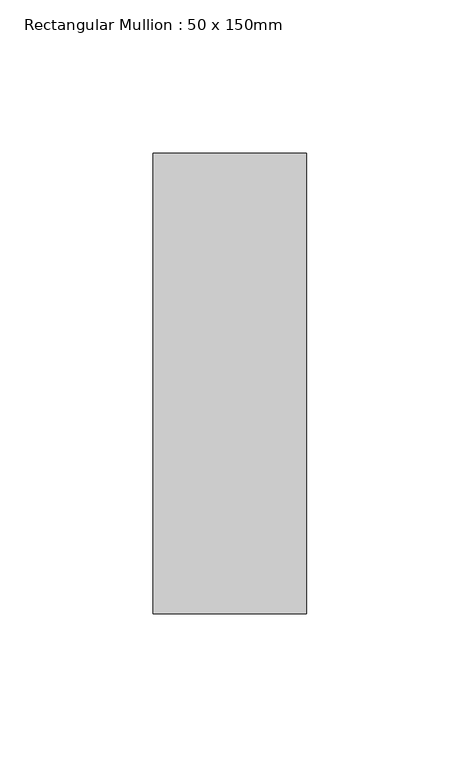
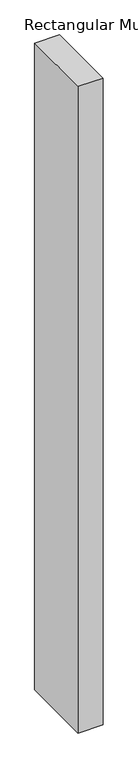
"""IFC4 building model written with IfcOpenShell, lengths in millimetres: member geometry, Rectangular Mullion : 50 x 150mm."""

from ifc_helpers import new_model, si_unit, frame, origin, place, context, project, spatial, polyline, outline, extrude, source, transform, mapped, element, save


def rectangular_mullion_50_x_150mm_5fc4eb71(model_context):
    return source(origin(), model_context, "Body", "SweptSolid", [
        extrude(outline(polyline([(25.0, 75.0), (25.0, -75.0), (-25.0, -75.0), (-25.0, 75.0), (25.0, 75.0)])), frame((0.0, 0.0, -1364.7256931), z_axis=(0.0, 0.0, 1.0), x_axis=(1.0, 0.0, 0.0)), (0.0, 0.0, 1.0), 1364.7256931),
    ])


if __name__ == "__main__":
    model = new_model("IFC4")
    model_context = context("Model", 3, world=origin())
    ifc_project = project(units=[si_unit("LENGTHUNIT", "METRE", prefix="MILLI")], contexts=[model_context])
    site = spatial("IfcSite", under=ifc_project)
    building = spatial("IfcBuilding", under=site)
    placement = place(None, origin())
    rectangular_mullion_50_x_150mm_shape = rectangular_mullion_50_x_150mm_5fc4eb71(model_context)
    element("IfcMember", 1, ObjectType="Rectangular Mullion : 50 x 150mm", at=placement, inside=building, context=model_context, shape_type="MappedRepresentation", body=[
        mapped(rectangular_mullion_50_x_150mm_shape, transform((0.0, 0.0, 0.0), x_axis=(1.0, 0.0, 0.0), y_axis=(0.0, 1.0, 0.0), z_axis=(0.0, 0.0, 1.0))),
    ])
    save(model, "model.ifc")
